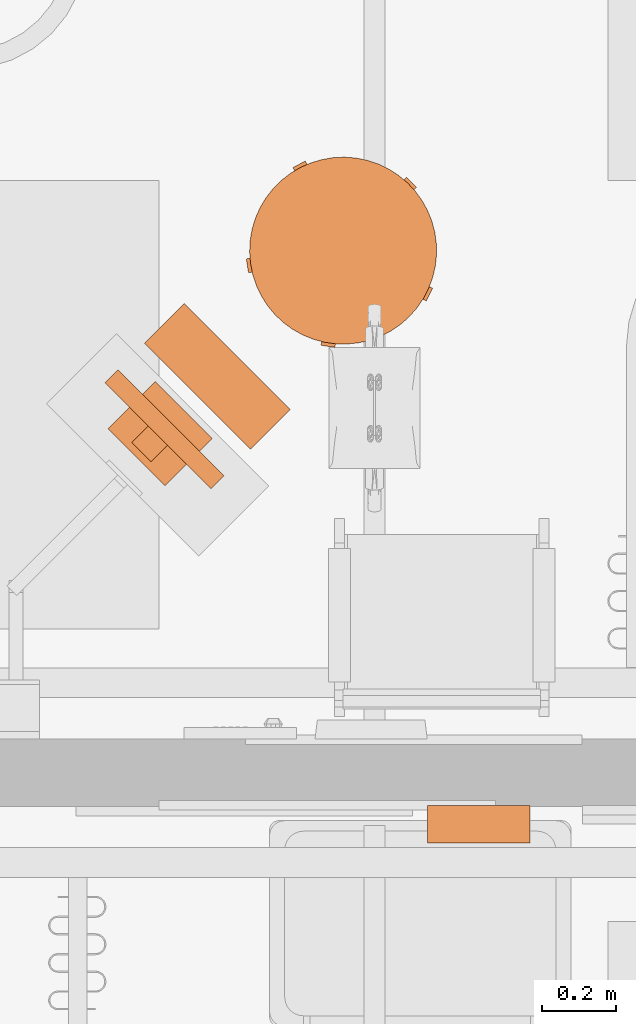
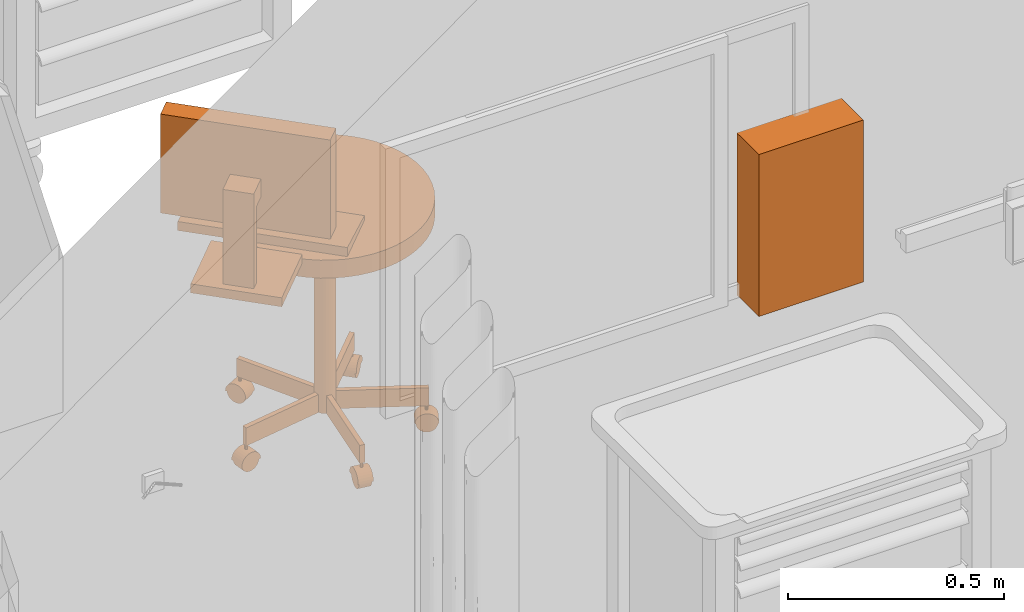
# One storey, part 132 of 142: 3 proxies.
"""IFC2X3 building model written with IfcOpenShell, lengths in feet."""

from ifc_helpers import new_model, entity, si_unit, converted_unit, derived_unit, direction, frame, frame_2d, origin, origin_2d_with_axis, place, context, subcontext, project, spatial, polyline, circle_curve, parameter, trimmed, segment, composite_curve, rectangle, circle, outline, extrude, faceted_brep, source, transform, mapped, type_object, type_shapes, element, save


model = new_model("IFC2X3")

# Units and contexts
model_context = context("Model", 3, precision=0.0001, world=origin(), true_north=direction((6.12303176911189e-17, 1.0)))
body_context = subcontext(model_context, "Body", "Model", "MODEL_VIEW")
ifc_project = project(units=[converted_unit("LENGTHUNIT", "FOOT", entity("IfcRatioMeasure", 0.3048), si_unit("LENGTHUNIT", "METRE"), dimensions=[1, 0, 0, 0, 0, 0, 0]), converted_unit("AREAUNIT", "SQUARE FOOT", entity("IfcRatioMeasure", 0.09290304), si_unit("AREAUNIT", "SQUARE_METRE"), dimensions=[2, 0, 0, 0, 0, 0, 0]), converted_unit("VOLUMEUNIT", "CUBIC FOOT", entity("IfcRatioMeasure", 0.028316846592), si_unit("VOLUMEUNIT", "CUBIC_METRE"), dimensions=[3, 0, 0, 0, 0, 0, 0]), converted_unit("PLANEANGLEUNIT", "DEGREE", entity("IfcRatioMeasure", 0.0174532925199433), si_unit("PLANEANGLEUNIT", "RADIAN"), dimensions=[0, 0, 0, 0, 0, 0, 0]), si_unit("MASSUNIT", "GRAM", prefix="KILO"), derived_unit("MASSDENSITYUNIT", [(si_unit("MASSUNIT", "GRAM", prefix="KILO"), 1), (si_unit("LENGTHUNIT", "METRE"), -3)]), si_unit("TIMEUNIT", "SECOND"), si_unit("FREQUENCYUNIT", "HERTZ"), si_unit("THERMODYNAMICTEMPERATUREUNIT", "DEGREE_CELSIUS"), derived_unit("THERMALTRANSMITTANCEUNIT", [(si_unit("MASSUNIT", "GRAM", prefix="KILO"), 1), (si_unit("THERMODYNAMICTEMPERATUREUNIT", "KELVIN"), -1), (si_unit("TIMEUNIT", "SECOND"), -3)]), derived_unit("VOLUMETRICFLOWRATEUNIT", [(si_unit("LENGTHUNIT", "METRE"), 3), (si_unit("TIMEUNIT", "SECOND"), -1)]), si_unit("ELECTRICCURRENTUNIT", "AMPERE"), si_unit("ELECTRICVOLTAGEUNIT", "VOLT"), si_unit("POWERUNIT", "WATT"), si_unit("FORCEUNIT", "NEWTON"), si_unit("ILLUMINANCEUNIT", "LUX"), si_unit("LUMINOUSFLUXUNIT", "LUMEN"), si_unit("LUMINOUSINTENSITYUNIT", "CANDELA"), derived_unit("USERDEFINED", [(si_unit("MASSUNIT", "GRAM", prefix="KILO"), -1), (si_unit("LENGTHUNIT", "METRE"), -2), (si_unit("TIMEUNIT", "SECOND"), 3), (si_unit("LUMINOUSFLUXUNIT", "LUMEN"), 1)]), derived_unit("LINEARVELOCITYUNIT", [(si_unit("LENGTHUNIT", "METRE"), 1), (si_unit("TIMEUNIT", "SECOND"), -1)]), si_unit("PRESSUREUNIT", "PASCAL"), derived_unit("USERDEFINED", [(si_unit("LENGTHUNIT", "METRE"), -2), (si_unit("MASSUNIT", "GRAM", prefix="KILO"), 1), (si_unit("TIMEUNIT", "SECOND"), -2)])], contexts=[model_context])

# Site, building, storey, space
site_placement = place(None, origin())
site = spatial("IfcSite", under=ifc_project, at=site_placement, Name="Default", CompositionType="ELEMENT")
building_placement = place(site_placement, origin())
building = spatial("IfcBuilding", under=site, at=building_placement, Name="OUTPATIENT / PACT CLINIC (Ch. 265)", CompositionType="ELEMENT")
storey_placement = place(building_placement, origin())
storey = spatial("IfcBuildingStorey", under=building, at=storey_placement, Name="LEVEL 1", CompositionType="ELEMENT", Elevation=0.0)
space_1_placement = place(storey_placement, origin())
space_1 = spatial("IfcSpace", under=storey, at=space_1_placement, Name="EXPA1", CompositionType="ELEMENT", InteriorOrExteriorSpace="INTERNAL")

# Proxies
building_element_proxy_type_1 = type_object("IfcBuildingElementProxyType", Name="M1801 - Computer with Flat Panel Monitor", PredefinedType="NOTDEFINED")
shared_shape_1 = source(origin(), body_context, "Body", "Brep", [
    faceted_brep([(0.666666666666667, -0.5625, 0.0), (0.666666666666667, -0.0624999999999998, 0.0), (0.666666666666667, -0.0624999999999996, 0.0833333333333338), (0.666666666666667, -0.5625, 0.0416666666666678), (-0.666666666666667, -0.5625, 0.0), (-0.666666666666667, -0.5625, 0.0416666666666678), (-0.666666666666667, -0.0624999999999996, 0.0833333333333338), (-0.666666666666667, -0.0624999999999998, 0.0)], [[[0, 1, 2, 3]], [[4, 5, 6, 7]], [[1, 0, 4, 7]], [[2, 1, 7, 6]], [[3, 2, 6, 5]], [[0, 3, 5, 4]]]),
    faceted_brep([(0.666666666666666, 0.437223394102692, 1.41666666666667), (-0.666666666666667, 0.437223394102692, 1.41666666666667), (-0.666666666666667, 0.271109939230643, 1.41666666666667), (0.666666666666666, 0.271109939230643, 1.41666666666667), (0.666666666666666, 0.437223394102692, 0.500000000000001), (0.666666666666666, 0.271109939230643, 0.500000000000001), (-0.666666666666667, 0.271109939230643, 0.500000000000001), (-0.666666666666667, 0.437223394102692, 0.500000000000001), (-0.625, 0.271109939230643, 1.375), (0.625, 0.271109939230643, 1.375), (0.625, 0.271109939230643, 0.541666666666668), (-0.625, 0.271109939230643, 0.541666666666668), (0.625, 0.286812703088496, 1.375), (-0.625, 0.286812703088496, 1.375), (0.625, 0.286812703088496, 0.541666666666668), (-0.625, 0.286812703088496, 0.541666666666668)], [[[0, 1, 2, 3]], [[4, 5, 6, 7]], [[1, 0, 4, 7]], [[2, 1, 7, 6]], [[3, 2, 6, 5], [8, 9, 10, 11]], [[0, 3, 5, 4]], [[12, 9, 8, 13]], [[14, 15, 11, 10]], [[12, 13, 15, 14]], [[13, 8, 11, 15]], [[9, 12, 14, 10]]]),
    faceted_brep([(0.358011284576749, 0.111770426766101, 0.0833333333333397), (0.358011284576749, 0.111770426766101, 0.0), (0.358011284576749, 0.708333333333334, 0.0), (0.358011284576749, 0.708333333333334, 0.0833333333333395), (-0.358011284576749, 0.708333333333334, 0.0833333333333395), (-0.358011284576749, 0.708333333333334, 0.0), (-0.358011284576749, 0.111770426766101, 0.0), (-0.358011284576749, 0.111770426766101, 0.0833333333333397), (0.12128795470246, 0.645556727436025, 0.104166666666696), (0.12128795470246, 0.645556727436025, 0.0833333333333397), (-0.12128795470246, 0.645556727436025, 0.0833333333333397), (-0.12128795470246, 0.645556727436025, 0.104166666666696), (0.12128795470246, 0.645556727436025, 0.958333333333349), (-0.12128795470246, 0.645556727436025, 0.958333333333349), (0.12128795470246, 0.437223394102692, 0.958333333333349), (-0.12128795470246, 0.437223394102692, 0.958333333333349), (0.12128795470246, 0.437223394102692, 0.791666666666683), (-0.12128795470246, 0.437223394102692, 0.791666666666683), (0.12128795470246, 0.562223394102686, 0.791666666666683), (-0.12128795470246, 0.562223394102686, 0.791666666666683), (0.12128795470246, 0.562223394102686, 0.0833333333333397), (-0.12128795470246, 0.562223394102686, 0.0833333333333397)], [[[0, 1, 2, 3]], [[4, 5, 6, 7]], [[8, 9, 10, 11]], [[12, 8, 11, 13]], [[14, 12, 13, 15]], [[16, 14, 15, 17]], [[18, 16, 17, 19]], [[20, 18, 19, 21]], [[0, 3, 4, 7], [9, 20, 21, 10]], [[1, 0, 7, 6]], [[2, 1, 6, 5]], [[3, 2, 5, 4]], [[20, 9, 8, 12, 14, 16, 18]], [[10, 21, 19, 17, 15, 13, 11]]]),
])
type_shapes(building_element_proxy_type_1, [shared_shape_1])
proxy_1_placement = place(space_1_placement, frame((439.803720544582, -890.015394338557, 2.9791666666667), z_axis=(0.0, 0.0, 1.0), x_axis=(-0.707106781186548, 0.707106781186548, 0.0)))
element("IfcBuildingElementProxy", 1, at=proxy_1_placement, inside=space_1, type_object=building_element_proxy_type_1, Name="M1801 - Computer with Flat Panel Monitor1:M1801 - Computer with Flat Panel Monitor", ObjectType="M1801 - Computer with Flat Panel Monitor", context=body_context, shape_type="MappedRepresentation", body=[
    mapped(shared_shape_1, transform((0.0, 0.0, 0.0), scale=1.0)),
])
building_element_proxy_type_2 = type_object("IfcBuildingElementProxyType", Name="F0340 - Stool, Self Adjusting", PredefinedType="NOTDEFINED")
shared_shape_2 = source(origin(), body_context, "Body", "SweptSolid", [
    extrude(circle(Radius=0.084518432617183, at=frame_2d((0.0, -1.38777878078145e-16), x_axis=(1.0, 0.0))), frame((0.717011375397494, 0.287734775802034, 0.0845184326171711), z_axis=(0.309016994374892, -0.951056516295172, 0.0), x_axis=(-0.951056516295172, -0.309016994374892, 0.0)), (0.0, 0.0, 1.0), 0.104166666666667),
    extrude(outline(composite_curve([segment(polyline([(-0.0925649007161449, 0.0), (0.0925649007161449, 0.0)]), True, "CONTINUOUS"), segment(trimmed(circle_curve(origin_2d_with_axis(), 0.0925649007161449), [parameter(2.03555499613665e-13)], [parameter(180.0)], True, "PARAMETER"), True, "CONTINUOUS")], self_intersect=False)), frame((0.752419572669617, 0.178759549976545, 0.0845184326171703), z_axis=(-0.309016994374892, 0.951056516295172, 0.0), x_axis=(-0.951056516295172, -0.309016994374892, 0.0)), (0.0, 0.0, 1.0), 0.125),
    extrude(circle(Radius=0.0115130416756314, at=frame_2d((7.9106571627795e-18, 1.14165428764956e-16), x_axis=(1.0, 0.0))), frame((0.73310678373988, 0.238198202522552, 0.177083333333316), z_axis=(0.0, 0.0, 1.0), x_axis=(0.309016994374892, -0.951056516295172, 0.0)), (0.0, 0.0, 1.0), 0.0442708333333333),
    extrude(rectangle(XDim=0.0416641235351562, YDim=0.7059128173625, at=frame_2d((1.38777878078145e-17, 0.0), x_axis=(1.0, 0.0))), frame((0.412570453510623, 0.134049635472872, 0.221354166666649), z_axis=(0.0, 0.0, 1.0), x_axis=(-0.309016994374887, 0.951056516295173, 0.0)), (0.0, 0.0, 1.0), 0.166666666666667),
    extrude(circle(Radius=0.084518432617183, at=frame_2d((0.0, -3.7470027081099e-16), x_axis=(1.0, 0.0))), frame((0.410948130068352, -0.654231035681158, 0.0845184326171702), z_axis=(0.809016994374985, 0.587785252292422, 0.0), x_axis=(-0.587785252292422, 0.809016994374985, 0.0)), (0.0, 0.0, 1.0), 0.104166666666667),
    extrude(outline(composite_curve([segment(polyline([(-0.0925649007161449, 0.0), (0.0925649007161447, 0.0)]), True, "CONTINUOUS"), segment(trimmed(circle_curve(origin_2d_with_axis(), 0.0925649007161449), [parameter(2.03555499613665e-13)], [parameter(180.0)], True, "PARAMETER"), True, "CONTINUOUS")], self_intersect=False)), frame((0.402520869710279, -0.660353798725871, 0.0845184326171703), z_axis=(0.809016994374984, 0.587785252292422, 0.0), x_axis=(-0.587785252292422, 0.809016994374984, 0.0)), (0.0, 0.0, 1.0), 0.125),
    extrude(circle(Radius=0.0115130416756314, at=origin_2d_with_axis()), frame((0.453082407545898, -0.623618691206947, 0.177083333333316), z_axis=(0.0, 0.0, 1.0), x_axis=(-0.809016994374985, -0.587785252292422, 0.0)), (0.0, 0.0, 1.0), 0.0442708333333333),
    extrude(rectangle(XDim=0.0416641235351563, YDim=0.705912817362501, at=frame_2d((0.0, -1.38777878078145e-16), x_axis=(1.0, 0.0))), frame((0.254980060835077, -0.350954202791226, 0.221354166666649), z_axis=(0.0, 0.0, 1.0), x_axis=(0.809016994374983, 0.587785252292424, 0.0)), (0.0, 0.0, 1.0), 0.166666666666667),
    extrude(circle(Radius=0.084518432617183, at=frame_2d((-3.2628636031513e-17, -1.38777878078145e-16), x_axis=(1.0, 0.0))), frame((-0.410948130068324, -0.654231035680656, 0.0845184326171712), z_axis=(-0.809016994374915, 0.587785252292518, 0.0), x_axis=(0.587785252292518, 0.809016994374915, 0.0)), (0.0, 0.0, 1.0), 0.104166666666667),
    extrude(outline(composite_curve([segment(trimmed(circle_curve(origin_2d_with_axis(), 0.0925649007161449), [parameter(180.0)], [parameter(360.0)], True, "PARAMETER"), True, "CONTINUOUS"), segment(polyline([(0.0925649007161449, 0.0), (-0.0925649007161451, 0.0)]), True, "CONTINUOUS")], self_intersect=False)), frame((-0.402520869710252, -0.66035379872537, 0.0845184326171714), z_axis=(-0.809016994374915, 0.587785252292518, 0.0), x_axis=(0.587785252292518, 0.809016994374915, 0.0)), (0.0, 0.0, 1.0), 0.125),
    extrude(circle(Radius=0.0115130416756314, at=frame_2d((-4.49094647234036e-17, -3.2628636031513e-17), x_axis=(1.0, 0.0))), frame((-0.453086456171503, -0.623615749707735, 0.177083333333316), z_axis=(0.0, 0.0, 1.0), x_axis=(-0.809016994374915, 0.587785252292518, 0.0)), (0.0, 0.0, 1.0), 0.0442708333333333),
    extrude(rectangle(XDim=0.0416641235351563, YDim=0.7059128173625, at=frame_2d((-4.16333634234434e-17, 5.55111512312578e-17), x_axis=(1.0, 0.0))), frame((-0.254984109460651, -0.350951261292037, 0.221354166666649), z_axis=(0.0, 0.0, 1.0), x_axis=(0.809016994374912, -0.587785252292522, 0.0)), (0.0, 0.0, 1.0), 0.166666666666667),
    extrude(circle(Radius=0.084518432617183, at=frame_2d((0.0, -1.38777878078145e-16), x_axis=(1.0, 0.0))), frame((-0.749200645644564, 0.188666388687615, 0.0845184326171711), z_axis=(0.309016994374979, 0.951056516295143, 0.0), x_axis=(0.951056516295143, -0.309016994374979, 0.0)), (0.0, 0.0, 1.0), 0.104166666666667),
    extrude(outline(composite_curve([segment(trimmed(circle_curve(origin_2d_with_axis(), 0.0925649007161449), [parameter(180.0)], [parameter(360.0)], True, "PARAMETER"), True, "CONTINUOUS"), segment(polyline([(0.0925649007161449, 0.0), (-0.0925649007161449, 0.0)]), True, "CONTINUOUS")], self_intersect=False)), frame((-0.752419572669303, 0.178759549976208, 0.0845184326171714), z_axis=(0.309016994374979, 0.951056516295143, 0.0), x_axis=(0.951056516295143, -0.309016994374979, 0.0)), (0.0, 0.0, 1.0), 0.125),
    extrude(circle(Radius=0.0115130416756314, at=frame_2d((7.91065716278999e-18, -1.14165428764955e-16), x_axis=(1.0, 0.0))), frame((-0.733105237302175, 0.238202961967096, 0.177083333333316), z_axis=(0.0, 0.0, 1.0), x_axis=(0.309016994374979, 0.951056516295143, 0.0)), (0.0, 0.0, 1.0), 0.0442708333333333),
    extrude(rectangle(XDim=0.0416641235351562, YDim=0.7059128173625, at=origin_2d_with_axis()), frame((-0.412568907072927, 0.134054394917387, 0.221354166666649), z_axis=(0.0, 0.0, 1.0), x_axis=(-0.309016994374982, -0.951056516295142, 0.0)), (0.0, 0.0, 1.0), 0.166666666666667),
    extrude(circle(Radius=0.084518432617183, at=frame_2d((-1.76415182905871e-31, -1.38777878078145e-16), x_axis=(1.0, 0.0))), frame((-0.0520833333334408, 0.770833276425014, 0.0845184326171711), z_axis=(1.0, 0.0, 0.0), x_axis=(0.0, -1.0, 0.0)), (0.0, 0.0, 1.0), 0.104166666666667),
    extrude(outline(composite_curve([segment(trimmed(circle_curve(origin_2d_with_axis(), 0.0925649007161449), [parameter(180.0)], [parameter(360.0)], True, "PARAMETER"), True, "CONTINUOUS"), segment(polyline([(0.0925649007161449, 0.0), (-0.0925649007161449, 0.0)]), True, "CONTINUOUS")], self_intersect=False)), frame((-0.0625000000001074, 0.770833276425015, 0.0845184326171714), z_axis=(1.0, 0.0, 0.0), x_axis=(0.0, -1.0, 0.0)), (0.0, 0.0, 1.0), 0.125),
    extrude(circle(Radius=0.0115130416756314, at=frame_2d((7.04731412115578e-19, 1.79171670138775e-32), x_axis=(1.0, 0.0))), frame((2.50218814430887e-06, 0.770833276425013, 0.177083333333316)), (0.0, 0.0, 1.0), 0.0442708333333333),
    extrude(rectangle(XDim=0.0416641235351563, YDim=0.7059128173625, at=frame_2d((3.46944695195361e-18, 5.55111512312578e-17), x_axis=(1.0, 0.0))), frame((2.50218813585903e-06, 0.433801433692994, 0.221354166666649), z_axis=(0.0, 0.0, 1.0), x_axis=(-1.0, 0.0, 0.0)), (0.0, 0.0, 1.0), 0.166666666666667),
    extrude(circle(Radius=0.0834863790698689, at=frame_2d((2.89333175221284e-18, -1.34875966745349e-16), x_axis=(1.0, 0.0))), frame((0.0, 0.0, 0.221354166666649)), (0.0, 0.0, 1.0), 1.77864583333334),
    extrude(circle(Radius=0.833333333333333, at=frame_2d((2.28760446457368e-17, -1.34628714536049e-15), x_axis=(1.0, 0.0))), frame((0.0, 0.0, 2.0)), (0.0, 0.0, 1.0), 0.166666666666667),
])
type_shapes(building_element_proxy_type_2, [shared_shape_2])
proxy_2_placement = place(space_1_placement, frame((441.145232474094, -888.673882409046, 0.0), z_axis=(0.0, 0.0, 1.0), x_axis=(0.707106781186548, -0.707106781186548, 0.0)))
element("IfcBuildingElementProxy", 2, at=proxy_2_placement, inside=space_1, type_object=building_element_proxy_type_2, Name="F0340 - Stool, Self Adjusting:F0340 - Stool, Self Adjusting", ObjectType="F0340 - Stool, Self Adjusting", context=body_context, shape_type="MappedRepresentation", body=[
    mapped(shared_shape_2, transform((0.0, 0.0, 0.0), scale=1.0)),
])

# Space
space_2_placement = place(storey_placement, origin())
space_2 = spatial("IfcSpace", under=storey, at=space_2_placement, Name="EXPA1", CompositionType="ELEMENT", InteriorOrExteriorSpace="INTERNAL")

# Proxy
building_element_proxy_type_3 = type_object("IfcBuildingElementProxyType", Name="A5107 - Dispenser, Glove, Surgical-Examination, Wall Mntd 10\"x 4\"", PredefinedType="NOTDEFINED")
shared_shape_3 = source(origin(), body_context, "Body", "SweptSolid", [
    extrude(rectangle(XDim=0.333333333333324, YDim=0.916666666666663, at=frame_2d((-1.38777878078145e-17, 0.0), x_axis=(1.0, 0.0))), frame((0.0, 0.166666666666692, 0.0), z_axis=(0.0, 0.0, 1.0), x_axis=(0.0, 1.0, 0.0)), (0.0, 0.0, 1.0), 1.5),
])
type_shapes(building_element_proxy_type_3, [shared_shape_3])
proxy_3_placement = place(space_2_placement, frame((442.353934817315, -893.619107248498, 4.0), z_axis=(0.0, 0.0, 1.0), x_axis=(-1.0, 0.0, 0.0)))
element("IfcBuildingElementProxy", 3, at=proxy_3_placement, inside=space_2, type_object=building_element_proxy_type_3, Name="A5107 - Dispenser, Glove, Surgical-Examination, Wall Mntd1:A5107 - Dispenser, Glove, Surgical-Examination, Wall Mntd 10\"x 4\"", ObjectType="A5107 - Dispenser, Glove, Surgical-Examination, Wall Mntd 10\"x 4\"", context=body_context, shape_type="MappedRepresentation", body=[
    mapped(shared_shape_3, transform((0.0, 0.0, 0.0), scale=1.0)),
])

save(model, "model.ifc")
